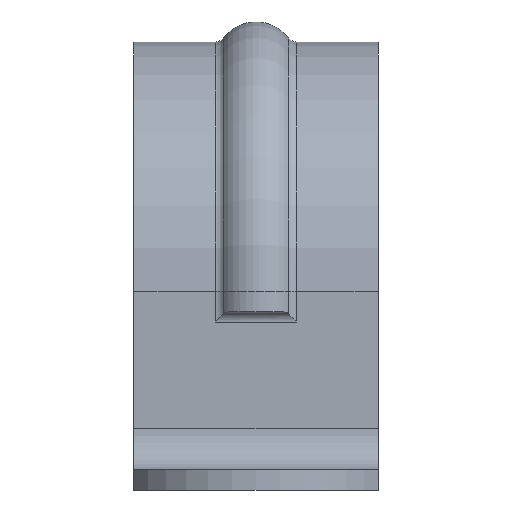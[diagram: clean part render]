
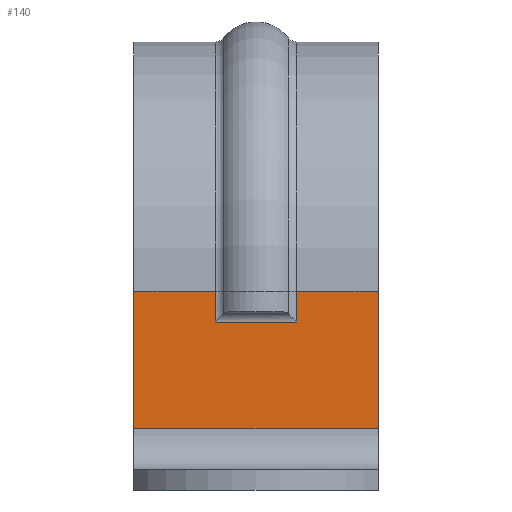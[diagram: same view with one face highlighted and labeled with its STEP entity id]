
A CAD part, left-side view. The second image highlights one B-rep face of the part: STEP entity #140.
In plain terms, the highlighted planar face has unit normal (-1, 0, 0).
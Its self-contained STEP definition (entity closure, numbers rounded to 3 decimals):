
#96=FACE_OUTER_BOUND('',#202,.T.);
#140=ADVANCED_FACE('',(#96),#184,.F.);
#184=PLANE('',#787);
#202=EDGE_LOOP('',(#356,#357,#358,#359,#360,#361,#362,#363));
#254=LINE('',#1104,#302);
#255=LINE('',#1107,#303);
#256=LINE('',#1109,#304);
#257=LINE('',#1111,#305);
#258=LINE('',#1113,#306);
#259=LINE('',#1115,#307);
#260=LINE('',#1117,#308);
#261=LINE('',#1119,#309);
#302=VECTOR('',#887,1.);
#303=VECTOR('',#888,1.);
#304=VECTOR('',#889,1.);
#305=VECTOR('',#890,1.);
#306=VECTOR('',#891,1.);
#307=VECTOR('',#892,1.);
#308=VECTOR('',#893,1.);
#309=VECTOR('',#894,1.);
#356=ORIENTED_EDGE('',*,*,#644,.F.);
#357=ORIENTED_EDGE('',*,*,#645,.T.);
#358=ORIENTED_EDGE('',*,*,#646,.T.);
#359=ORIENTED_EDGE('',*,*,#647,.F.);
#360=ORIENTED_EDGE('',*,*,#648,.T.);
#361=ORIENTED_EDGE('',*,*,#649,.T.);
#362=ORIENTED_EDGE('',*,*,#650,.T.);
#363=ORIENTED_EDGE('',*,*,#651,.F.);
#576=VERTEX_POINT('',#1105);
#577=VERTEX_POINT('',#1106);
#578=VERTEX_POINT('',#1108);
#579=VERTEX_POINT('',#1110);
#580=VERTEX_POINT('',#1112);
#581=VERTEX_POINT('',#1114);
#582=VERTEX_POINT('',#1116);
#583=VERTEX_POINT('',#1118);
#644=EDGE_CURVE('',#576,#577,#254,.T.);
#645=EDGE_CURVE('',#576,#578,#255,.T.);
#646=EDGE_CURVE('',#578,#579,#256,.T.);
#647=EDGE_CURVE('',#580,#579,#257,.T.);
#648=EDGE_CURVE('',#580,#581,#258,.T.);
#649=EDGE_CURVE('',#581,#582,#259,.T.);
#650=EDGE_CURVE('',#582,#583,#260,.T.);
#651=EDGE_CURVE('',#577,#583,#261,.T.);
#787=AXIS2_PLACEMENT_3D('',#1120,#895,#896);
#887=DIRECTION('',(0.,0.,1.));
#888=DIRECTION('',(0.,-1.,0.));
#889=DIRECTION('',(0.,0.,1.));
#890=DIRECTION('',(0.,-1.,0.));
#891=DIRECTION('',(0.,0.,-1.));
#892=DIRECTION('',(0.,1.,0.));
#893=DIRECTION('',(0.,0.,1.));
#894=DIRECTION('',(0.,-1.,0.));
#895=DIRECTION('',(1.,0.,0.));
#896=DIRECTION('',(0.,0.,-1.));
#1104=CARTESIAN_POINT('',(-12.25,6.,-8.75));
#1105=CARTESIAN_POINT('',(-12.25,6.,-6.75));
#1106=CARTESIAN_POINT('',(-12.25,6.,0.));
#1107=CARTESIAN_POINT('',(-12.25,-6.,-6.75));
#1108=CARTESIAN_POINT('',(-12.25,-6.,-6.75));
#1109=CARTESIAN_POINT('',(-12.25,-6.,-8.75));
#1110=CARTESIAN_POINT('',(-12.25,-6.,0.));
#1111=CARTESIAN_POINT('',(-12.25,6.,0.));
#1112=CARTESIAN_POINT('',(-12.25,-1.992,0.));
#1113=CARTESIAN_POINT('',(-12.25,-1.992,-8.75));
#1114=CARTESIAN_POINT('',(-12.25,-1.992,-1.5));
#1115=CARTESIAN_POINT('',(-12.25,1.726,-1.5));
#1116=CARTESIAN_POINT('',(-12.25,1.992,-1.5));
#1117=CARTESIAN_POINT('',(-12.25,1.992,-8.75));
#1118=CARTESIAN_POINT('',(-12.25,1.992,0.));
#1119=CARTESIAN_POINT('',(-12.25,6.,0.));
#1120=CARTESIAN_POINT('',(-12.25,6.,-8.75));
